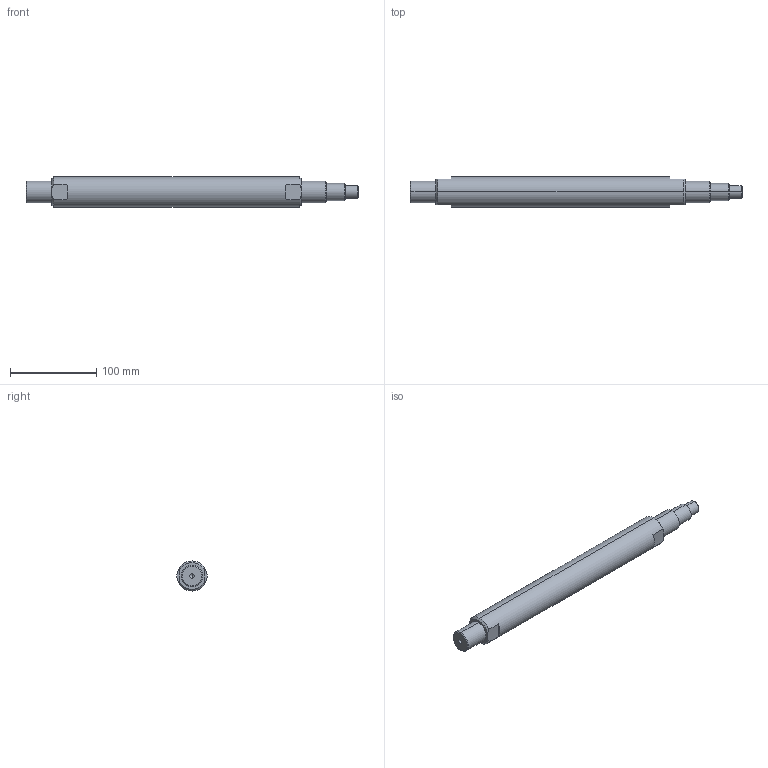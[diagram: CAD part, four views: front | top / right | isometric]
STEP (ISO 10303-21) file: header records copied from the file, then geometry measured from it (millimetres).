
FILE_DESCRIPTION (( 'STEP AP203' ), '1' );
FILE_NAME ('CY-DD-B008.step', '2023-12-27T04:44:15', ( '1' ), ( '' ), 'SwSTEP 2.0', 'SolidWorks 2022', '' );
FILE_SCHEMA (( 'CONFIG_CONTROL_DESIGN' ));
Length unit declared in the file: millimetre
Products named in the file (1): CY-DD-B008
Bounding box: 386 x 34.9 x 35 mm (x, y, z)
Volume: 313984.8 mm3; surface area: 40760 mm2
Topology: 1 solids, 1 shells, 53 faces, 125 edges, 76 vertices
Faces by surface type: cone 19, cylinder 17, plane 17
Entity records: 1643 total; most frequent: CARTESIAN_POINT 343, DIRECTION 272, ORIENTED_EDGE 242, EDGE_CURVE 121, AXIS2_PLACEMENT_3D 109, VERTEX_POINT 76, EDGE_LOOP 59, CIRCLE 55
